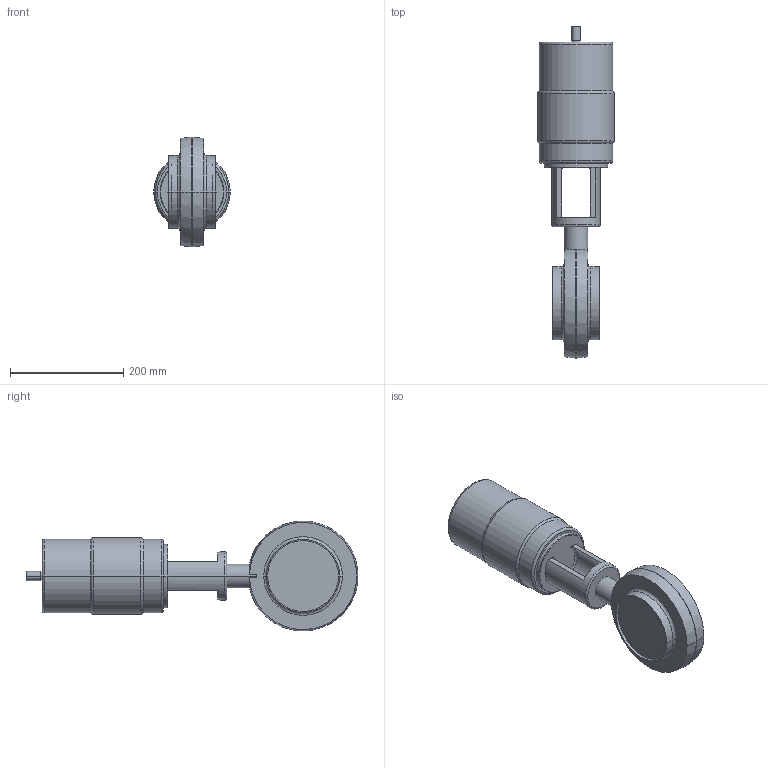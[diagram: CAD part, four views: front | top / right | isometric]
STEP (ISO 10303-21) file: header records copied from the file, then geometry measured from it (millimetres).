
FILE_DESCRIPTION(('OneSpaceDesigner STEP Export'),'2;1');
FILE_NAME('SV1-125-FZ-12S.stp','2007-06-01T 9:50:31',(''),(''),'OneSpace Designer STEP processor for AP214 (Solid Model)','OneSpace Modeling 15.00 06-Feb-2007 (C) CoCreate Software GmbH','');
FILE_SCHEMA(('AUTOMOTIVE_DESIGN { 1 0 10303 214 1 1 1 1 }'));
Length unit declared in the file: millimetre
Products named in the file (3): SV1-FZ-125; SV1-125-FZ-12S.stp
Assembly tree (2 placements, depth 3):
  SV1-125-FZ-12S.stp
    SV1-125-FZ-12S.stp
      SV1-FZ-125
Bounding box: 135 x 586.5 x 193.95 mm (x, y, z)
Volume: 4867034.1 mm3; surface area: 258139.5 mm2
Topology: 1 solids, 1 shells, 79 faces, 180 edges, 111 vertices
Faces by surface type: torus 30, cylinder 28, plane 21
Entity records: 3159 total; most frequent: CARTESIAN_POINT 1592, ORIENTED_EDGE 360, DIRECTION 268, EDGE_CURVE 180, AXIS2_PLACEMENT_3D 111, VERTEX_POINT 111, EDGE_LOOP 89, FACE_OUTER_BOUND 79
